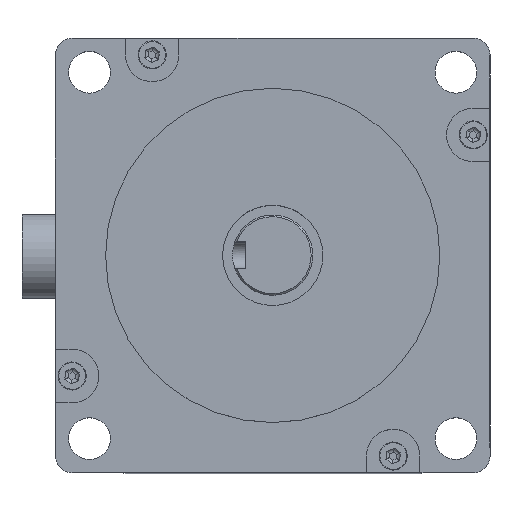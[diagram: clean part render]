
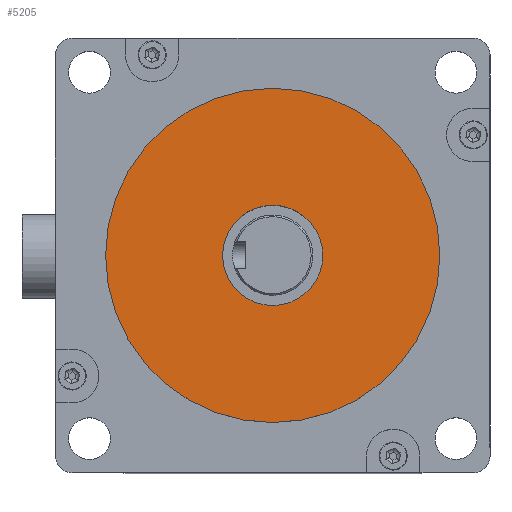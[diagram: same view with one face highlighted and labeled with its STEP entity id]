
A CAD part, top view. The second image highlights one B-rep face of the part: STEP entity #5205.
In plain terms, the highlighted planar face has unit normal (0, 0, 1) as drawn and (0, 0, -1) by its records, which use the part's own axes.
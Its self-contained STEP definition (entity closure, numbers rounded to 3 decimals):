
#218 = DIRECTION ( 'NONE',  ( 0., 0., -1. ) ) ;
#564 = VERTEX_POINT ( 'NONE', #2918 ) ;
#1083 = DIRECTION ( 'NONE',  ( 0., 0., -1. ) ) ;
#1545 = DIRECTION ( 'NONE',  ( 0., 0., -1. ) ) ;
#1975 = FACE_OUTER_BOUND ( 'NONE', #6101, .T. ) ;
#2038 = VERTEX_POINT ( 'NONE', #7721 ) ;
#2083 = CARTESIAN_POINT ( 'NONE',  ( 0., 0., 0. ) ) ;
#2278 = EDGE_CURVE ( 'NONE', #9523, #564, #3397, .T. ) ;
#2752 = DIRECTION ( 'NONE',  ( -1., 0., 0. ) ) ;
#2802 = ORIENTED_EDGE ( 'NONE', *, *, #7618, .F. ) ;
#2869 = AXIS2_PLACEMENT_3D ( 'NONE', #3035, #6947, #2752 ) ;
#2918 = CARTESIAN_POINT ( 'NONE',  ( -50., 0., 0. ) ) ;
#3035 = CARTESIAN_POINT ( 'NONE',  ( 0., 0., 0. ) ) ;
#3397 = CIRCLE ( 'NONE', #2869, 50. ) ;
#3912 = DIRECTION ( 'NONE',  ( -1., 0., 0. ) ) ;
#3930 = CARTESIAN_POINT ( 'NONE',  ( -15., 0., 0. ) ) ;
#4035 = DIRECTION ( 'NONE',  ( -1., 0., 0. ) ) ;
#4277 = AXIS2_PLACEMENT_3D ( 'NONE', #10169, #6871, #3912 ) ;
#4742 = EDGE_LOOP ( 'NONE', ( #2802, #5189 ) ) ;
#5189 = ORIENTED_EDGE ( 'NONE', *, *, #6970, .F. ) ;
#5200 = ORIENTED_EDGE ( 'NONE', *, *, #2278, .T. ) ;
#5205 = ADVANCED_FACE ( 'NONE', ( #8198, #1975 ), #8280, .T. ) ;
#5512 = AXIS2_PLACEMENT_3D ( 'NONE', #6536, #1545, #7405 ) ;
#6101 = EDGE_LOOP ( 'NONE', ( #9987, #5200 ) ) ;
#6107 = CARTESIAN_POINT ( 'NONE',  ( 0., 0., 0. ) ) ;
#6166 = CIRCLE ( 'NONE', #5512, 15. ) ;
#6536 = CARTESIAN_POINT ( 'NONE',  ( 0., 0., 0. ) ) ;
#6871 = DIRECTION ( 'NONE',  ( 0., 0., -1. ) ) ;
#6939 = VERTEX_POINT ( 'NONE', #3930 ) ;
#6947 = DIRECTION ( 'NONE',  ( 0., 0., -1. ) ) ;
#6950 = DIRECTION ( 'NONE',  ( -1., 0., 0. ) ) ;
#6970 = EDGE_CURVE ( 'NONE', #2038, #6939, #9131, .T. ) ;
#7060 = CARTESIAN_POINT ( 'NONE',  ( 50., 0., 0. ) ) ;
#7405 = DIRECTION ( 'NONE',  ( -1., 0., 0. ) ) ;
#7618 = EDGE_CURVE ( 'NONE', #6939, #2038, #6166, .T. ) ;
#7721 = CARTESIAN_POINT ( 'NONE',  ( 15., 0., 0. ) ) ;
#8198 = FACE_BOUND ( 'NONE', #4742, .T. ) ;
#8280 = PLANE ( 'NONE',  #8632 ) ;
#8301 = CIRCLE ( 'NONE', #10682, 50. ) ;
#8632 = AXIS2_PLACEMENT_3D ( 'NONE', #2083, #218, #4035 ) ;
#8745 = EDGE_CURVE ( 'NONE', #564, #9523, #8301, .T. ) ;
#9131 = CIRCLE ( 'NONE', #4277, 15. ) ;
#9523 = VERTEX_POINT ( 'NONE', #7060 ) ;
#9987 = ORIENTED_EDGE ( 'NONE', *, *, #8745, .T. ) ;
#10169 = CARTESIAN_POINT ( 'NONE',  ( 0., 0., 0. ) ) ;
#10682 = AXIS2_PLACEMENT_3D ( 'NONE', #6107, #1083, #6950 ) ;
